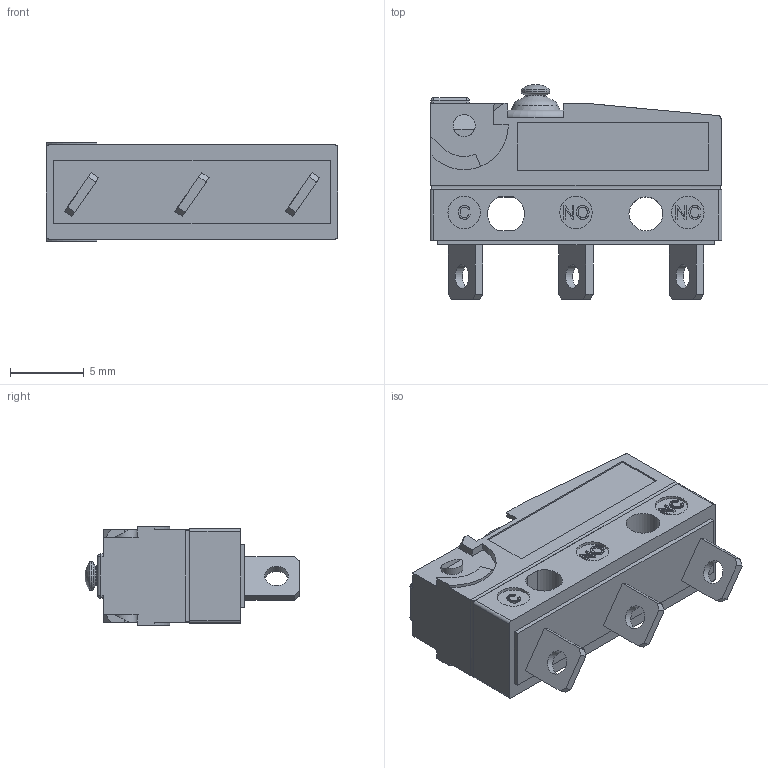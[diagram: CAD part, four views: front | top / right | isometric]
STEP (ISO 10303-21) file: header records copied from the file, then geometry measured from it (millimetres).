
FILE_DESCRIPTION(('Microrutor Subminiatura Protegido Pino'),'2;1');
FILE_NAME('E:\WorkFolder\Bibl\3DWeb\kp_mm_mmp$a$s_step.stp','2020-04-15T14:52:45',('DIE'),('KAP Componentes Eletricos Ltda.'),'Autodesk Inventor 2011','Autodesk Inventor 2011','Direitos reservados. Proibido reproducao, cedencia ou revelacao de conteudo a terceiros, salvo com autorizacao.');
FILE_SCHEMA(('AUTOMOTIVE_DESIGN { 1 0 10303 214 1 1 1 1 }'));
Length unit declared in the file: millimetre
Products named in the file (1): Part5
Bounding box: 19.8 x 14.59 x 6.7 mm (x, y, z)
Volume: 1080.9 mm3; surface area: 963.8 mm2
Topology: 1 solids, 1 shells, 304 faces, 778 edges, 506 vertices
Faces by surface type: plane 195, bspline 57, cylinder 41, sphere 5, cone 3, torus 3
Full cylindrical faces by diameter (mm): 1.35 x1, 1.5 x2, 1.6 x3, 1.95 x1, 2.2 x6, 2.3 x1
Entity records: 10376 total; most frequent: CARTESIAN_POINT 3047, ORIENTED_EDGE 1512, DIRECTION 1218, EDGE_CURVE 756, VECTOR 554, LINE 554, VERTEX_POINT 506, EDGE_LOOP 366
